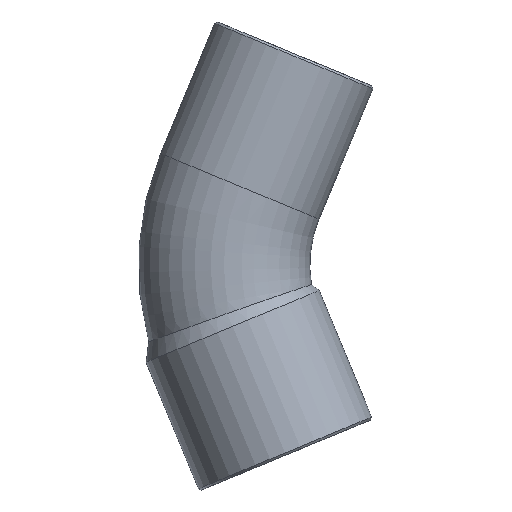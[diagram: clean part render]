
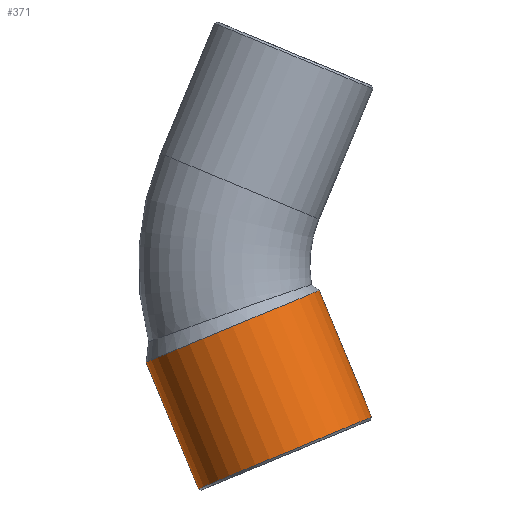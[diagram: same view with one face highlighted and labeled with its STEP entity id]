
A CAD part, front view. The second image highlights one B-rep face of the part: STEP entity #371.
In plain terms, the highlighted cylindrical face has radius 8.2 mm (diameter 16.4 mm), a partial arc.
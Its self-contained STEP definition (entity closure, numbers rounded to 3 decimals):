
#178=CARTESIAN_POINT('',(-20.4,0.,-8.508));
#179=VERTEX_POINT('',#178);
#186=CARTESIAN_POINT('',(-5.248,0.,-2.232));
#187=VERTEX_POINT('',#186);
#188=CARTESIAN_POINT('',(-12.824,0.,-5.37));
#189=DIRECTION('',(-0.383,0.,0.924));
#190=DIRECTION('',(0.924,0.,0.383));
#191=AXIS2_PLACEMENT_3D('',#188,#189,#190);
#192=CIRCLE('',#191,8.2);
#193=EDGE_CURVE('',#179,#187,#192,.T.);
#340=CARTESIAN_POINT('',(-12.752,0.,-5.543));
#341=DIRECTION('',(0.383,0.,-0.924));
#342=DIRECTION('',(0.924,0.,0.383));
#343=AXIS2_PLACEMENT_3D('',#340,#341,#342);
#344=CYLINDRICAL_SURFACE('',#343,8.2);
#345=CARTESIAN_POINT('',(-0.661,0.,-13.307));
#346=VERTEX_POINT('',#345);
#347=CARTESIAN_POINT('',(-5.248,0.,-2.232));
#348=DIRECTION('',(0.383,0.,-0.924));
#349=VECTOR('',#348,11.988);
#350=LINE('',#347,#349);
#351=EDGE_CURVE('',#187,#346,#350,.T.);
#352=ORIENTED_EDGE('',*,*,#351,.F.);
#353=ORIENTED_EDGE('',*,*,#193,.F.);
#354=CARTESIAN_POINT('',(-15.812,0.,-19.583));
#355=VERTEX_POINT('',#354);
#356=CARTESIAN_POINT('',(-15.812,0.,-19.583));
#357=DIRECTION('',(-0.383,0.,0.924));
#358=VECTOR('',#357,11.988);
#359=LINE('',#356,#358);
#360=EDGE_CURVE('',#355,#179,#359,.T.);
#361=ORIENTED_EDGE('',*,*,#360,.F.);
#362=CARTESIAN_POINT('',(-8.236,0.,-16.445));
#363=DIRECTION('',(0.383,0.,-0.924));
#364=DIRECTION('',(0.924,0.,0.383));
#365=AXIS2_PLACEMENT_3D('',#362,#363,#364);
#366=CIRCLE('',#365,8.2);
#367=EDGE_CURVE('',#346,#355,#366,.T.);
#368=ORIENTED_EDGE('',*,*,#367,.F.);
#369=EDGE_LOOP('',(#352,#353,#361,#368));
#370=FACE_OUTER_BOUND('',#369,.T.);
#371=ADVANCED_FACE('',(#370),#344,.T.);
